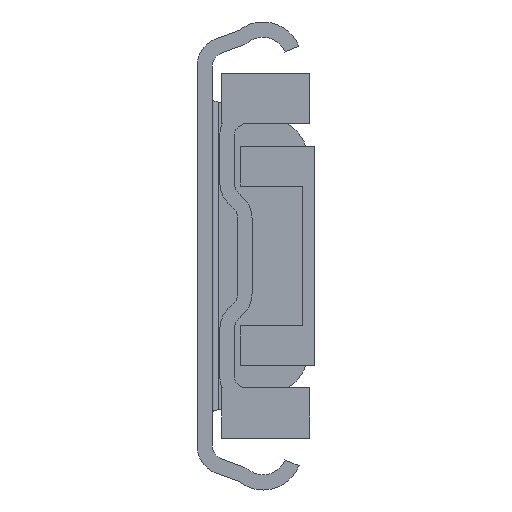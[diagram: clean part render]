
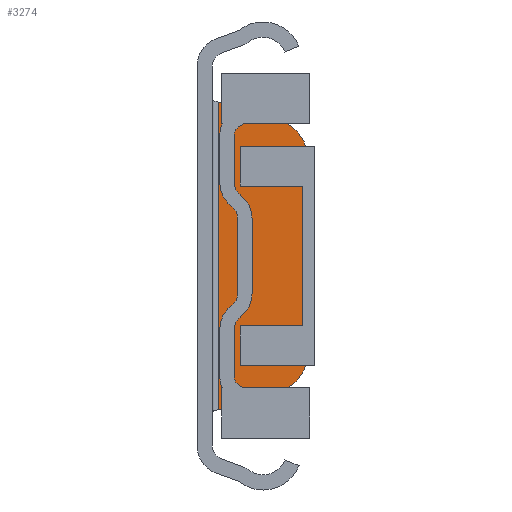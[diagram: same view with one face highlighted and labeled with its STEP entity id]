
A CAD part, front view. The second image highlights one B-rep face of the part: STEP entity #3274.
In plain terms, the highlighted planar face has unit normal (0, -1, 0).
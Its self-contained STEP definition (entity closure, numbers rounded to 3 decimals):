
#109=PLANE('',#3915);
#377=LINE('',#5645,#708);
#378=LINE('',#5650,#709);
#379=LINE('',#5654,#710);
#380=LINE('',#5656,#711);
#708=VECTOR('',#4674,1000.);
#709=VECTOR('',#4677,1000.);
#710=VECTOR('',#4680,1000.);
#711=VECTOR('',#4681,1000.);
#1459=ORIENTED_EDGE('',*,*,#2077,.F.);
#1460=ORIENTED_EDGE('',*,*,#2078,.F.);
#1461=ORIENTED_EDGE('',*,*,#2079,.F.);
#1462=ORIENTED_EDGE('',*,*,#2080,.F.);
#1463=ORIENTED_EDGE('',*,*,#2081,.F.);
#1464=ORIENTED_EDGE('',*,*,#2082,.F.);
#2077=EDGE_CURVE('',#2444,#2445,#377,.T.);
#2078=EDGE_CURVE('',#2446,#2444,#2630,.F.);
#2079=EDGE_CURVE('',#2447,#2446,#378,.T.);
#2080=EDGE_CURVE('',#2448,#2447,#2631,.F.);
#2081=EDGE_CURVE('',#2449,#2448,#379,.T.);
#2082=EDGE_CURVE('',#2445,#2449,#380,.T.);
#2444=VERTEX_POINT('',#5646);
#2445=VERTEX_POINT('',#5647);
#2446=VERTEX_POINT('',#5649);
#2447=VERTEX_POINT('',#5651);
#2448=VERTEX_POINT('',#5653);
#2449=VERTEX_POINT('',#5655);
#2630=CIRCLE('',#3916,8.);
#2631=CIRCLE('',#3917,8.);
#2817=EDGE_LOOP('',(#1459,#1460,#1461,#1462,#1463,#1464));
#3022=FACE_BOUND('',#2817,.T.);
#3274=ADVANCED_FACE('',(#3022),#109,.T.);
#3915=AXIS2_PLACEMENT_3D('',#5644,#4672,#4673);
#3916=AXIS2_PLACEMENT_3D('',#5648,#4675,#4676);
#3917=AXIS2_PLACEMENT_3D('',#5652,#4678,#4679);
#4672=DIRECTION('',(0.,-1.,0.));
#4673=DIRECTION('',(0.,0.,-1.));
#4674=DIRECTION('',(-0.966,0.,-0.259));
#4675=DIRECTION('',(0.,-1.,0.));
#4676=DIRECTION('',(0.,0.,-1.));
#4677=DIRECTION('',(0.,0.,-1.));
#4678=DIRECTION('',(0.,-1.,0.));
#4679=DIRECTION('',(0.,0.,-1.));
#4680=DIRECTION('',(0.966,0.,-0.259));
#4681=DIRECTION('',(0.,0.,1.));
#5644=CARTESIAN_POINT('',(12.9,378.5,14.965));
#5645=CARTESIAN_POINT('',(22.316,378.5,-20.174));
#5646=CARTESIAN_POINT('',(12.471,378.5,-22.812));
#5647=CARTESIAN_POINT('',(3.5,378.5,-25.216));
#5648=CARTESIAN_POINT('',(10.4,378.5,-15.085));
#5649=CARTESIAN_POINT('',(18.4,378.5,-15.085));
#5650=CARTESIAN_POINT('',(18.4,378.5,14.965));
#5651=CARTESIAN_POINT('',(18.4,378.5,15.085));
#5652=CARTESIAN_POINT('',(10.4,378.5,15.085));
#5653=CARTESIAN_POINT('',(12.471,378.5,22.812));
#5654=CARTESIAN_POINT('',(14.833,378.5,22.179));
#5655=CARTESIAN_POINT('',(3.5,378.5,25.216));
#5656=CARTESIAN_POINT('',(3.5,378.5,-25.766));
